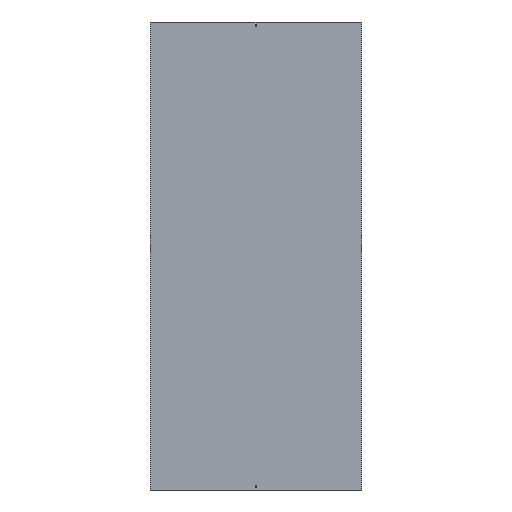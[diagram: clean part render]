
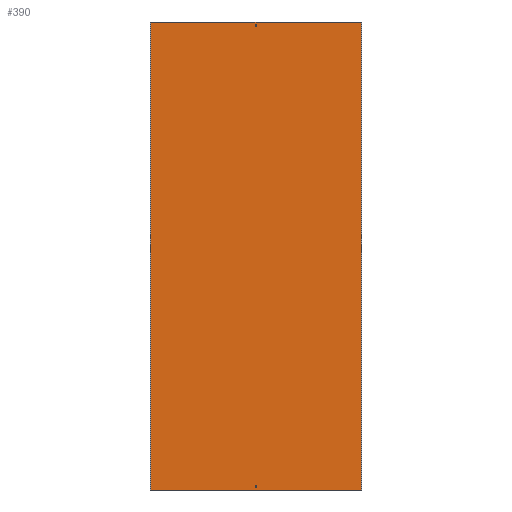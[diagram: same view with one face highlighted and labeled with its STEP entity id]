
A CAD part, front view. The second image highlights one B-rep face of the part: STEP entity #390.
In plain terms, the highlighted planar face has unit normal (0, -1, 0).
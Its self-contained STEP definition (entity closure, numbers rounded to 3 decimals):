
#2 = LINE ( 'NONE', #283, #198 ) ;
#4 = CARTESIAN_POINT ( 'NONE',  ( -3.25, -1.5, -979. ) ) ;
#14 = EDGE_CURVE ( 'NONE', #21, #88, #2, .T. ) ;
#21 = VERTEX_POINT ( 'NONE', #95 ) ;
#24 = VERTEX_POINT ( 'NONE', #222 ) ;
#29 = CARTESIAN_POINT ( 'NONE',  ( -450., -1.5, 1000. ) ) ;
#33 = EDGE_CURVE ( 'NONE', #555, #24, #50, .T. ) ;
#47 = VECTOR ( 'NONE', #316, 1000. ) ;
#50 = LINE ( 'NONE', #99, #549 ) ;
#53 = CARTESIAN_POINT ( 'NONE',  ( -3.25, -1.5, 979. ) ) ;
#60 = DIRECTION ( 'NONE',  ( 0., 0., -1. ) ) ;
#73 = PLANE ( 'NONE',  #529 ) ;
#78 = VECTOR ( 'NONE', #394, 1000. ) ;
#79 = EDGE_CURVE ( 'NONE', #24, #84, #412, .T. ) ;
#80 = ORIENTED_EDGE ( 'NONE', *, *, #92, .F. ) ;
#84 = VERTEX_POINT ( 'NONE', #4 ) ;
#88 = VERTEX_POINT ( 'NONE', #415 ) ;
#89 = LINE ( 'NONE', #133, #78 ) ;
#92 = EDGE_CURVE ( 'NONE', #466, #347, #104, .T. ) ;
#95 = CARTESIAN_POINT ( 'NONE',  ( 450., -1.5, 1000. ) ) ;
#99 = CARTESIAN_POINT ( 'NONE',  ( -451.5, -1.5, -988. ) ) ;
#104 = LINE ( 'NONE', #285, #259 ) ;
#125 = ORIENTED_EDGE ( 'NONE', *, *, #589, .F. ) ;
#127 = VERTEX_POINT ( 'NONE', #53 ) ;
#133 = CARTESIAN_POINT ( 'NONE',  ( 3.25, -1.5, 1000. ) ) ;
#144 = LINE ( 'NONE', #307, #261 ) ;
#157 = ORIENTED_EDGE ( 'NONE', *, *, #331, .T. ) ;
#159 = VECTOR ( 'NONE', #60, 1000. ) ;
#161 = CARTESIAN_POINT ( 'NONE',  ( -451.5, -1.5, 1000. ) ) ;
#163 = ORIENTED_EDGE ( 'NONE', *, *, #254, .T. ) ;
#165 = EDGE_CURVE ( 'NONE', #127, #487, #444, .T. ) ;
#170 = VECTOR ( 'NONE', #494, 1000. ) ;
#179 = DIRECTION ( 'NONE',  ( -1., 0., 0. ) ) ;
#186 = CARTESIAN_POINT ( 'NONE',  ( -451.5, -1.5, -1000. ) ) ;
#198 = VECTOR ( 'NONE', #460, 1000. ) ;
#200 = CARTESIAN_POINT ( 'NONE',  ( -3.25, -1.5, 1000. ) ) ;
#202 = ORIENTED_EDGE ( 'NONE', *, *, #79, .T. ) ;
#203 = DIRECTION ( 'NONE',  ( 0., -1., 0. ) ) ;
#216 = ORIENTED_EDGE ( 'NONE', *, *, #33, .T. ) ;
#222 = CARTESIAN_POINT ( 'NONE',  ( -3.25, -1.5, -988. ) ) ;
#224 = CARTESIAN_POINT ( 'NONE',  ( -3.25, -1.5, 1000. ) ) ;
#232 = CARTESIAN_POINT ( 'NONE',  ( -451.5, -1.5, 979. ) ) ;
#233 = EDGE_CURVE ( 'NONE', #84, #558, #144, .T. ) ;
#253 = ORIENTED_EDGE ( 'NONE', *, *, #526, .T. ) ;
#254 = EDGE_CURVE ( 'NONE', #428, #577, #279, .T. ) ;
#259 = VECTOR ( 'NONE', #418, 1000. ) ;
#261 = VECTOR ( 'NONE', #506, 1000. ) ;
#264 = CARTESIAN_POINT ( 'NONE',  ( -450., -1.5, -1000. ) ) ;
#270 = DIRECTION ( 'NONE',  ( -1., 0., 0. ) ) ;
#279 = LINE ( 'NONE', #491, #47 ) ;
#283 = CARTESIAN_POINT ( 'NONE',  ( 450., -1.5, 1000. ) ) ;
#285 = CARTESIAN_POINT ( 'NONE',  ( -451.5, -1.5, 988. ) ) ;
#289 = ORIENTED_EDGE ( 'NONE', *, *, #165, .F. ) ;
#292 = CARTESIAN_POINT ( 'NONE',  ( 3.25, -1.5, 1000. ) ) ;
#296 = ORIENTED_EDGE ( 'NONE', *, *, #543, .F. ) ;
#300 = FACE_OUTER_BOUND ( 'NONE', #575, .T. ) ;
#307 = CARTESIAN_POINT ( 'NONE',  ( -451.5, -1.5, -979. ) ) ;
#315 = LINE ( 'NONE', #453, #411 ) ;
#316 = DIRECTION ( 'NONE',  ( 0., 0., -1. ) ) ;
#331 = EDGE_CURVE ( 'NONE', #558, #555, #513, .T. ) ;
#332 = CARTESIAN_POINT ( 'NONE',  ( -3.25, -1.5, 988. ) ) ;
#340 = FACE_BOUND ( 'NONE', #573, .T. ) ;
#347 = VERTEX_POINT ( 'NONE', #332 ) ;
#350 = CARTESIAN_POINT ( 'NONE',  ( 3.25, -1.5, -979. ) ) ;
#385 = VECTOR ( 'NONE', #576, 1000. ) ;
#390 = ADVANCED_FACE ( 'NONE', ( #392, #300, #340 ), #73, .T. ) ;
#392 = FACE_BOUND ( 'NONE', #443, .T. ) ;
#394 = DIRECTION ( 'NONE',  ( 0., 0., 1. ) ) ;
#411 = VECTOR ( 'NONE', #179, 1000. ) ;
#412 = LINE ( 'NONE', #200, #523 ) ;
#415 = CARTESIAN_POINT ( 'NONE',  ( 450., -1.5, -1000. ) ) ;
#418 = DIRECTION ( 'NONE',  ( -1., 0., 0. ) ) ;
#419 = ORIENTED_EDGE ( 'NONE', *, *, #14, .F. ) ;
#425 = DIRECTION ( 'NONE',  ( 0., 0., 1. ) ) ;
#428 = VERTEX_POINT ( 'NONE', #29 ) ;
#430 = DIRECTION ( 'NONE',  ( 0., 0., -1. ) ) ;
#443 = EDGE_LOOP ( 'NONE', ( #563, #80, #296, #289 ) ) ;
#444 = LINE ( 'NONE', #232, #570 ) ;
#447 = LINE ( 'NONE', #224, #385 ) ;
#453 = CARTESIAN_POINT ( 'NONE',  ( -451.5, -1.5, 1000. ) ) ;
#460 = DIRECTION ( 'NONE',  ( 0., 0., -1. ) ) ;
#466 = VERTEX_POINT ( 'NONE', #525 ) ;
#487 = VERTEX_POINT ( 'NONE', #519 ) ;
#491 = CARTESIAN_POINT ( 'NONE',  ( -450., -1.5, 1000. ) ) ;
#494 = DIRECTION ( 'NONE',  ( -1., 0., 0. ) ) ;
#506 = DIRECTION ( 'NONE',  ( 1., 0., 0. ) ) ;
#513 = LINE ( 'NONE', #292, #159 ) ;
#519 = CARTESIAN_POINT ( 'NONE',  ( 3.25, -1.5, 979. ) ) ;
#523 = VECTOR ( 'NONE', #425, 1000. ) ;
#525 = CARTESIAN_POINT ( 'NONE',  ( 3.25, -1.5, 988. ) ) ;
#526 = EDGE_CURVE ( 'NONE', #21, #428, #315, .T. ) ;
#529 = AXIS2_PLACEMENT_3D ( 'NONE', #161, #203, #430 ) ;
#543 = EDGE_CURVE ( 'NONE', #487, #466, #89, .T. ) ;
#547 = CARTESIAN_POINT ( 'NONE',  ( 3.25, -1.5, -988. ) ) ;
#549 = VECTOR ( 'NONE', #270, 1000. ) ;
#552 = ORIENTED_EDGE ( 'NONE', *, *, #233, .T. ) ;
#555 = VERTEX_POINT ( 'NONE', #547 ) ;
#558 = VERTEX_POINT ( 'NONE', #350 ) ;
#563 = ORIENTED_EDGE ( 'NONE', *, *, #569, .F. ) ;
#569 = EDGE_CURVE ( 'NONE', #347, #127, #447, .T. ) ;
#570 = VECTOR ( 'NONE', #591, 1000. ) ;
#573 = EDGE_LOOP ( 'NONE', ( #216, #202, #552, #157 ) ) ;
#575 = EDGE_LOOP ( 'NONE', ( #125, #419, #253, #163 ) ) ;
#576 = DIRECTION ( 'NONE',  ( 0., 0., -1. ) ) ;
#577 = VERTEX_POINT ( 'NONE', #264 ) ;
#589 = EDGE_CURVE ( 'NONE', #88, #577, #590, .T. ) ;
#590 = LINE ( 'NONE', #186, #170 ) ;
#591 = DIRECTION ( 'NONE',  ( 1., 0., 0. ) ) ;
